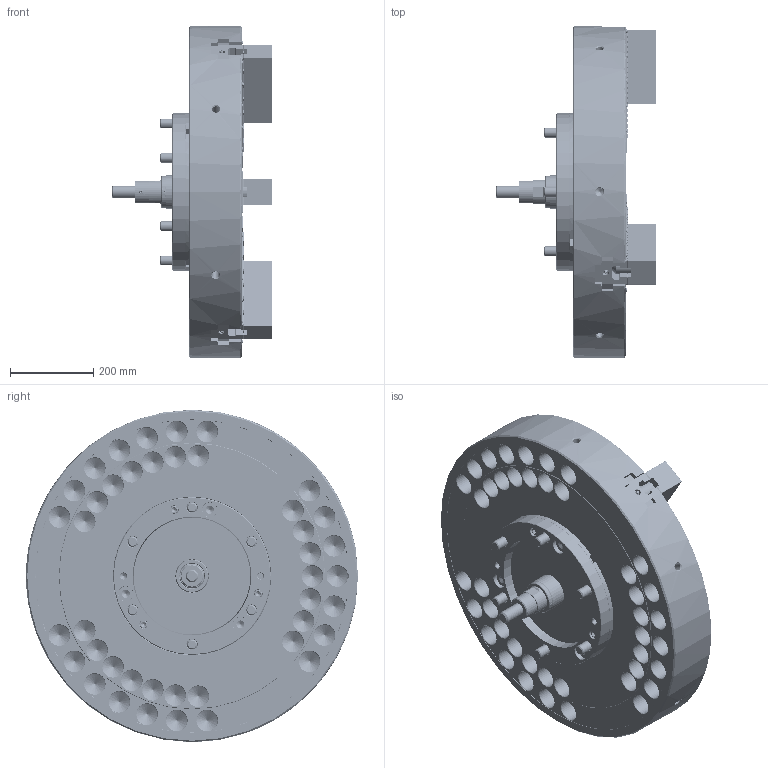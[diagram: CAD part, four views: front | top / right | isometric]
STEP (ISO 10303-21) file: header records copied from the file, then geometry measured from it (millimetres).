
FILE_DESCRIPTION (( 'STEP AP214' ), '1' );
FILE_NAME ('DT1_NV32C15_OUTSIDE_VIEW_OC.STEP', '2026-03-24T05:50:31', ( '' ), ( '' ), 'SwSTEP 2.0', 'SolidWorks 2022', '' );
FILE_SCHEMA (( 'AUTOMOTIVE_DESIGN' ));
Length unit declared in the file: millimetre
Products named in the file (18): DT1_NV32C15_S39^DT1_NV32C1500_円筒用; DT1_NV32C15_M24x160^DT1_NV32C1500; DT1_NV32C15_M6x12^DT1_NV32C1500; Copy of 0030112055^DT1_NV32C1500; DT1_NV32C15_BP^DT1_NV32C1500; DT1_NV32C15_SOFTJAW^DT1_NV32C1500; DT1_NV32C15_BASE^DT1_NV32C1500; DT1_NV32C15_COVER^DT1_NV32C1500; DT1_NV32C15_CAP^DT1_NV32C1500; Copy of 61P321208^DT1_NV32C1500; DT1_NV32C15_COVERFOOTER^DT1_NV32C1500; DT1_NV32C15_OUTSIDE_VIEW_OC; DT1_NV32C15_DN^DT1_NV32C1500; DT1_NV32C15_ORING^DT1_NV32C1500; DT1_NV32C15_TNUT^DT1_NV32C1500; DT1_NV32C15_P80^DT1_NV32C1500_円筒用; DT1_NV32C15_M20x60^DT1_NV32C1500; DT1_NV32C15_DRAWSCREW^DT1_NV32C1500
Assembly tree (48 placements, depth 2):
  DT1_NV32C15_OUTSIDE_VIEW_OC
    DT1_NV32C15_SOFTJAW^DT1_NV32C1500  x3
    DT1_NV32C15_TNUT^DT1_NV32C1500  x6
    DT1_NV32C15_COVER^DT1_NV32C1500
    DT1_NV32C15_DRAWSCREW^DT1_NV32C1500
    Copy of 61P321208^DT1_NV32C1500
    DT1_NV32C15_COVERFOOTER^DT1_NV32C1500
    DT1_NV32C15_M6x12^DT1_NV32C1500  x6
    Copy of 0030112055^DT1_NV32C1500  x3
    DT1_NV32C15_M20x60^DT1_NV32C1500  x6
    DT1_NV32C15_M24x160^DT1_NV32C1500  x6
    DT1_NV32C15_S39^DT1_NV32C1500_円筒用
    DT1_NV32C15_P80^DT1_NV32C1500_円筒用
    DT1_NV32C15_CAP^DT1_NV32C1500  x6
    DT1_NV32C15_ORING^DT1_NV32C1500  x3
    DT1_NV32C15_DN^DT1_NV32C1500
    DT1_NV32C15_BP^DT1_NV32C1500
    DT1_NV32C15_BASE^DT1_NV32C1500
Bounding box: 387 x 800 x 800 mm (x, y, z)
Volume: 62591948 mm3; surface area: 3245129.2 mm2
Topology: 48 solids, 126 shells, 11391 faces, 31723 edges, 20640 vertices
Faces by surface type: plane 6753, cylinder 2283, cone 1162, bspline 1027, torus 160, sphere 6
Entity records: 330536 total; most frequent: CARTESIAN_POINT 99541, ORIENTED_EDGE 51426, DIRECTION 42153, EDGE_CURVE 25713, LINE 18227, VECTOR 18227, VERTEX_POINT 16894, AXIS2_PLACEMENT_3D 11963
